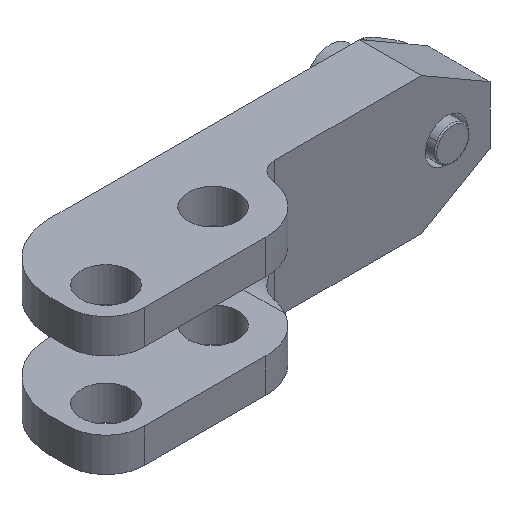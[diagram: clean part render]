
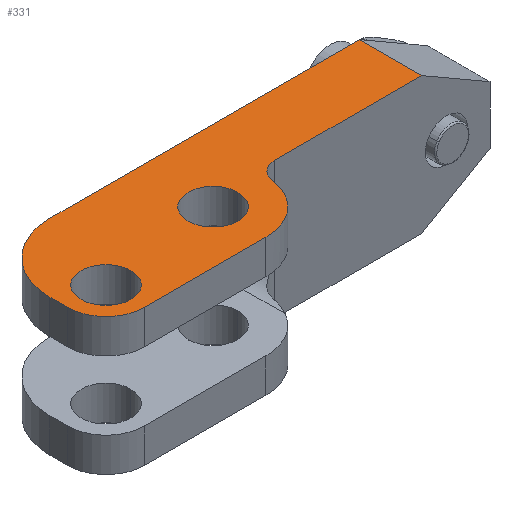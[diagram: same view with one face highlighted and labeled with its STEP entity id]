
A CAD part, isometric view. The second image highlights one B-rep face of the part: STEP entity #331.
In plain terms, the highlighted planar face has unit normal (0, 0, 1) as drawn and (0, 0, -1) by its records, which use the part's own axes.
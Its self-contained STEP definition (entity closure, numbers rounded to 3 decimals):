
#16 = VERTEX_POINT ( 'NONE', #473 ) ;
#29 = EDGE_CURVE ( 'NONE', #1066, #2354, #912, .T. ) ;
#59 = VECTOR ( 'NONE', #164, 1000. ) ;
#70 = CARTESIAN_POINT ( 'NONE',  ( -4., 0., 0. ) ) ;
#72 = CIRCLE ( 'NONE', #313, 6.2 ) ;
#105 = DIRECTION ( 'NONE',  ( 0., 0., 1. ) ) ;
#121 = VERTEX_POINT ( 'NONE', #134 ) ;
#134 = CARTESIAN_POINT ( 'NONE',  ( 25.7, 0.5, 0. ) ) ;
#149 = ORIENTED_EDGE ( 'NONE', *, *, #2617, .T. ) ;
#164 = DIRECTION ( 'NONE',  ( -1., 0., 0. ) ) ;
#198 = LINE ( 'NONE', #2140, #1807 ) ;
#204 = VERTEX_POINT ( 'NONE', #257 ) ;
#231 = CARTESIAN_POINT ( 'NONE',  ( 4., 0., 0. ) ) ;
#252 = DIRECTION ( 'NONE',  ( 0., 0., 1. ) ) ;
#257 = CARTESIAN_POINT ( 'NONE',  ( -35., 1.5, 0. ) ) ;
#258 = ORIENTED_EDGE ( 'NONE', *, *, #1697, .T. ) ;
#294 = AXIS2_PLACEMENT_3D ( 'NONE', #2225, #972, #2446 ) ;
#312 = PLANE ( 'NONE',  #1544 ) ;
#313 = AXIS2_PLACEMENT_3D ( 'NONE', #1488, #252, #1703 ) ;
#331 = ADVANCED_FACE ( 'NONE', ( #2250, #1073, #1633 ), #312, .F. ) ;
#446 = CARTESIAN_POINT ( 'NONE',  ( 14.7, 11.5, 0. ) ) ;
#473 = CARTESIAN_POINT ( 'NONE',  ( 25.7, -2.3, 0. ) ) ;
#497 = AXIS2_PLACEMENT_3D ( 'NONE', #781, #2226, #973 ) ;
#514 = ORIENTED_EDGE ( 'NONE', *, *, #815, .T. ) ;
#584 = ORIENTED_EDGE ( 'NONE', *, *, #2633, .F. ) ;
#585 = CIRCLE ( 'NONE', #1825, 4. ) ;
#624 = CARTESIAN_POINT ( 'NONE',  ( 0., 0., 0. ) ) ;
#639 = CARTESIAN_POINT ( 'NONE',  ( 15.5, -2.3, 0. ) ) ;
#658 = CIRCLE ( 'NONE', #497, 11. ) ;
#673 = ORIENTED_EDGE ( 'NONE', *, *, #1933, .F. ) ;
#683 = LINE ( 'NONE', #1419, #59 ) ;
#760 = VECTOR ( 'NONE', #1093, 1000. ) ;
#781 = CARTESIAN_POINT ( 'NONE',  ( 14.7, 0.5, 0. ) ) ;
#796 = EDGE_CURVE ( 'NONE', #16, #121, #1385, .T. ) ;
#815 = EDGE_CURVE ( 'NONE', #204, #1228, #198, .T. ) ;
#837 = ORIENTED_EDGE ( 'NONE', *, *, #1604, .F. ) ;
#840 = DIRECTION ( 'NONE',  ( 1., 0., 0. ) ) ;
#912 = CIRCLE ( 'NONE', #2346, 4. ) ;
#913 = ORIENTED_EDGE ( 'NONE', *, *, #1523, .T. ) ;
#957 = CARTESIAN_POINT ( 'NONE',  ( 0., -8.5, 0. ) ) ;
#972 = DIRECTION ( 'NONE',  ( 0., 0., 1. ) ) ;
#973 = DIRECTION ( 'NONE',  ( 1., 0., 0. ) ) ;
#986 = EDGE_CURVE ( 'NONE', #1909, #2687, #2262, .T. ) ;
#998 = EDGE_LOOP ( 'NONE', ( #2611, #1120 ) ) ;
#1016 = VERTEX_POINT ( 'NONE', #2511 ) ;
#1021 = CARTESIAN_POINT ( 'NONE',  ( -35., 11.5, 0. ) ) ;
#1065 = AXIS2_PLACEMENT_3D ( 'NONE', #624, #2082, #840 ) ;
#1066 = VERTEX_POINT ( 'NONE', #1475 ) ;
#1073 = FACE_BOUND ( 'NONE', #998, .T. ) ;
#1093 = DIRECTION ( 'NONE',  ( 0., 1., 0. ) ) ;
#1096 = CARTESIAN_POINT ( 'NONE',  ( 19.5, -8.5, 0. ) ) ;
#1097 = DIRECTION ( 'NONE',  ( 0., 0., 1. ) ) ;
#1120 = ORIENTED_EDGE ( 'NONE', *, *, #1590, .T. ) ;
#1128 = AXIS2_PLACEMENT_3D ( 'NONE', #1210, #2660, #1427 ) ;
#1129 = CARTESIAN_POINT ( 'NONE',  ( -11.402, -1.5, 0. ) ) ;
#1132 = ORIENTED_EDGE ( 'NONE', *, *, #986, .F. ) ;
#1145 = CARTESIAN_POINT ( 'NONE',  ( 0., 0., 0. ) ) ;
#1210 = CARTESIAN_POINT ( 'NONE',  ( 0., 0., 0. ) ) ;
#1228 = VERTEX_POINT ( 'NONE', #1021 ) ;
#1246 = CIRCLE ( 'NONE', #294, 4. ) ;
#1359 = DIRECTION ( 'NONE',  ( 1., 0., 0. ) ) ;
#1371 = DIRECTION ( 'NONE',  ( 1., 0., 0. ) ) ;
#1372 = CARTESIAN_POINT ( 'NONE',  ( 0., 0., 0. ) ) ;
#1385 = LINE ( 'NONE', #1940, #760 ) ;
#1419 = CARTESIAN_POINT ( 'NONE',  ( 0., 11.5, 0. ) ) ;
#1427 = DIRECTION ( 'NONE',  ( 1., 0., 0. ) ) ;
#1450 = EDGE_LOOP ( 'NONE', ( #149, #1666 ) ) ;
#1463 = AXIS2_PLACEMENT_3D ( 'NONE', #1129, #2594, #1359 ) ;
#1475 = CARTESIAN_POINT ( 'NONE',  ( 23.5, -2.3, 0. ) ) ;
#1488 = CARTESIAN_POINT ( 'NONE',  ( 19.5, -2.3, 0. ) ) ;
#1513 = LINE ( 'NONE', #2414, #1980 ) ;
#1523 = EDGE_CURVE ( 'NONE', #2192, #2687, #2158, .T. ) ;
#1544 = AXIS2_PLACEMENT_3D ( 'NONE', #1372, #105, #1566 ) ;
#1566 = DIRECTION ( 'NONE',  ( 1., 0., 0. ) ) ;
#1579 = DIRECTION ( 'NONE',  ( 1., 0., 0. ) ) ;
#1590 = EDGE_CURVE ( 'NONE', #2069, #1771, #585, .T. ) ;
#1604 = EDGE_CURVE ( 'NONE', #204, #1016, #1513, .T. ) ;
#1633 = FACE_BOUND ( 'NONE', #1450, .T. ) ;
#1666 = ORIENTED_EDGE ( 'NONE', *, *, #29, .T. ) ;
#1697 = EDGE_CURVE ( 'NONE', #1951, #121, #658, .T. ) ;
#1703 = DIRECTION ( 'NONE',  ( 1., 0., 0. ) ) ;
#1737 = DIRECTION ( 'NONE',  ( 0., 1., 0. ) ) ;
#1771 = VERTEX_POINT ( 'NONE', #70 ) ;
#1777 = ORIENTED_EDGE ( 'NONE', *, *, #796, .F. ) ;
#1794 = DIRECTION ( 'NONE',  ( -1., 0., 0. ) ) ;
#1807 = VECTOR ( 'NONE', #1737, 1000. ) ;
#1825 = AXIS2_PLACEMENT_3D ( 'NONE', #1145, #2603, #1371 ) ;
#1851 = CARTESIAN_POINT ( 'NONE',  ( -8.427, -1.109, 0. ) ) ;
#1909 = VERTEX_POINT ( 'NONE', #1851 ) ;
#1933 = EDGE_CURVE ( 'NONE', #2192, #16, #72, .T. ) ;
#1940 = CARTESIAN_POINT ( 'NONE',  ( 25.7, 0., 0. ) ) ;
#1951 = VERTEX_POINT ( 'NONE', #446 ) ;
#1980 = VECTOR ( 'NONE', #1579, 1000. ) ;
#2069 = VERTEX_POINT ( 'NONE', #231 ) ;
#2082 = DIRECTION ( 'NONE',  ( 0., 0., 1. ) ) ;
#2096 = VECTOR ( 'NONE', #1794, 1000. ) ;
#2140 = CARTESIAN_POINT ( 'NONE',  ( -35., 0., 0. ) ) ;
#2158 = LINE ( 'NONE', #957, #2096 ) ;
#2192 = VERTEX_POINT ( 'NONE', #1096 ) ;
#2210 = CIRCLE ( 'NONE', #1128, 4. ) ;
#2225 = CARTESIAN_POINT ( 'NONE',  ( 19.5, -2.3, 0. ) ) ;
#2226 = DIRECTION ( 'NONE',  ( 0., 0., -1. ) ) ;
#2240 = CARTESIAN_POINT ( 'NONE',  ( 0., -8.5, 0. ) ) ;
#2250 = FACE_OUTER_BOUND ( 'NONE', #2393, .T. ) ;
#2262 = CIRCLE ( 'NONE', #1065, 8.5 ) ;
#2346 = AXIS2_PLACEMENT_3D ( 'NONE', #2352, #1097, #2565 ) ;
#2352 = CARTESIAN_POINT ( 'NONE',  ( 19.5, -2.3, 0. ) ) ;
#2354 = VERTEX_POINT ( 'NONE', #639 ) ;
#2393 = EDGE_LOOP ( 'NONE', ( #584, #258, #1777, #673, #913, #1132, #2681, #837, #514 ) ) ;
#2414 = CARTESIAN_POINT ( 'NONE',  ( 0., 1.5, 0. ) ) ;
#2446 = DIRECTION ( 'NONE',  ( 1., 0., 0. ) ) ;
#2511 = CARTESIAN_POINT ( 'NONE',  ( -11.402, 1.5, 0. ) ) ;
#2565 = DIRECTION ( 'NONE',  ( 1., 0., 0. ) ) ;
#2574 = EDGE_CURVE ( 'NONE', #1909, #1016, #2667, .T. ) ;
#2594 = DIRECTION ( 'NONE',  ( 0., 0., 1. ) ) ;
#2603 = DIRECTION ( 'NONE',  ( 0., 0., 1. ) ) ;
#2611 = ORIENTED_EDGE ( 'NONE', *, *, #2684, .T. ) ;
#2617 = EDGE_CURVE ( 'NONE', #2354, #1066, #1246, .T. ) ;
#2633 = EDGE_CURVE ( 'NONE', #1951, #1228, #683, .T. ) ;
#2660 = DIRECTION ( 'NONE',  ( 0., 0., 1. ) ) ;
#2667 = CIRCLE ( 'NONE', #1463, 3. ) ;
#2681 = ORIENTED_EDGE ( 'NONE', *, *, #2574, .T. ) ;
#2684 = EDGE_CURVE ( 'NONE', #1771, #2069, #2210, .T. ) ;
#2687 = VERTEX_POINT ( 'NONE', #2240 ) ;
